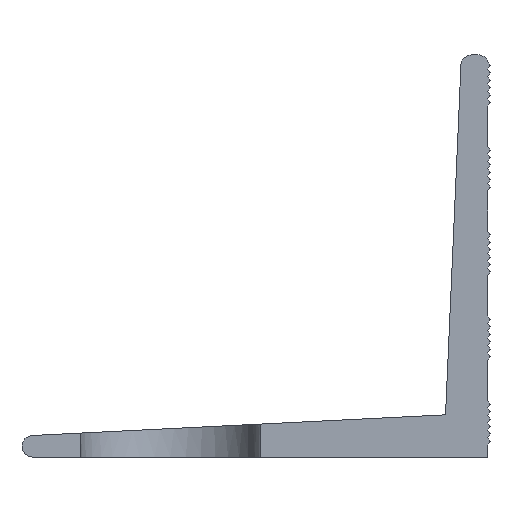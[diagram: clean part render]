
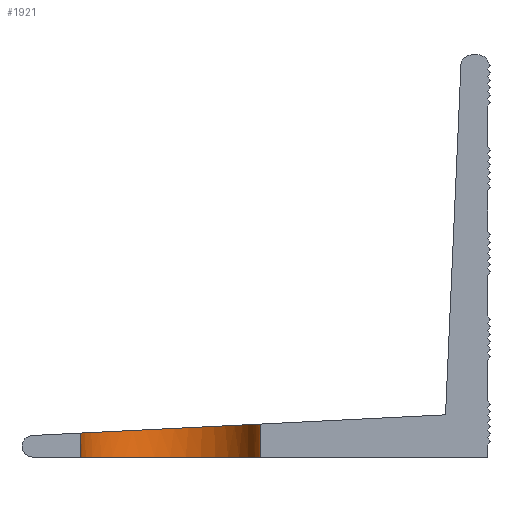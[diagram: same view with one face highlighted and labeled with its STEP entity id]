
A CAD part, left-side view. The second image highlights one B-rep face of the part: STEP entity #1921.
In plain terms, the highlighted cylindrical face has radius 8.5 mm (diameter 17 mm), a partial arc.
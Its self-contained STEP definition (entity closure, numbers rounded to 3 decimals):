
#1921=ADVANCED_FACE('',(#3893),#3895,.F.);
#3893=FACE_BOUND('',#3894,.T.);
#3894=EDGE_LOOP('',(#5614,#5615,#5616,#5617));
#3895=CYLINDRICAL_SURFACE('',#3896,8.5);
#3896=AXIS2_PLACEMENT_3D('',#3897,#3898,#3899);
#3897=CARTESIAN_POINT('',(0.,30.,20.));
#3898=DIRECTION('',(0.,0.,-1.));
#3899=DIRECTION('',(0.,1.,0.));
#5614=ORIENTED_EDGE('',*,*,#6132,.F.);
#5615=ORIENTED_EDGE('',*,*,#6518,.F.);
#5616=ORIENTED_EDGE('',*,*,#6152,.F.);
#5617=ORIENTED_EDGE('',*,*,#6302,.F.);
#6132=EDGE_CURVE('',#7159,#7161,#7162,.T.);
#6152=EDGE_CURVE('',#7197,#7199,#7200,.F.);
#6302=EDGE_CURVE('',#7161,#7197,#7498,.T.);
#6518=EDGE_CURVE('',#7199,#7159,#7781,.F.);
#7159=VERTEX_POINT('',#9168);
#7161=VERTEX_POINT('',#9172);
#7162=(BOUNDED_CURVE()B_SPLINE_CURVE(3,
(#9173,#9174,#9175,#9176),
.UNSPECIFIED.,.F.,.F.)B_SPLINE_CURVE_WITH_KNOTS((4,4),
(0.,1.),
.UNSPECIFIED.)CURVE()GEOMETRIC_REPRESENTATION_ITEM()RATIONAL_B_SPLINE_CURVE((1.,
0.333,0.333,1.))REPRESENTATION_ITEM(''));
#7197=VERTEX_POINT('',#9311);
#7199=VERTEX_POINT('',#9315);
#7200=CIRCLE('',#9316,8.5);
#7498=LINE('',#9980,#9981);
#7781=LINE('',#10762,#10763);
#9168=CARTESIAN_POINT('',(0.,38.5,2.275));
#9172=CARTESIAN_POINT('',(0.,21.5,3.125));
#9173=CARTESIAN_POINT('',(0.,38.5,2.275));
#9174=CARTESIAN_POINT('',(17.,38.5,2.275));
#9175=CARTESIAN_POINT('',(17.,21.5,3.125));
#9176=CARTESIAN_POINT('',(0.,21.5,3.125));
#9311=CARTESIAN_POINT('',(0.,21.5,0.));
#9315=CARTESIAN_POINT('',(0.,38.5,0.));
#9316=AXIS2_PLACEMENT_3D('',#9317,#9318,#9319);
#9317=CARTESIAN_POINT('',(0.,30.,0.));
#9318=DIRECTION('',(0.,0.,-1.));
#9319=DIRECTION('',(0.,1.,0.));
#9980=CARTESIAN_POINT('',(0.,21.5,3.125));
#9981=VECTOR('',#9982,1.);
#9982=DIRECTION('',(0.,0.,-1.));
#10762=CARTESIAN_POINT('',(0.,38.5,2.275));
#10763=VECTOR('',#10764,1.);
#10764=DIRECTION('',(0.,0.,-1.));
